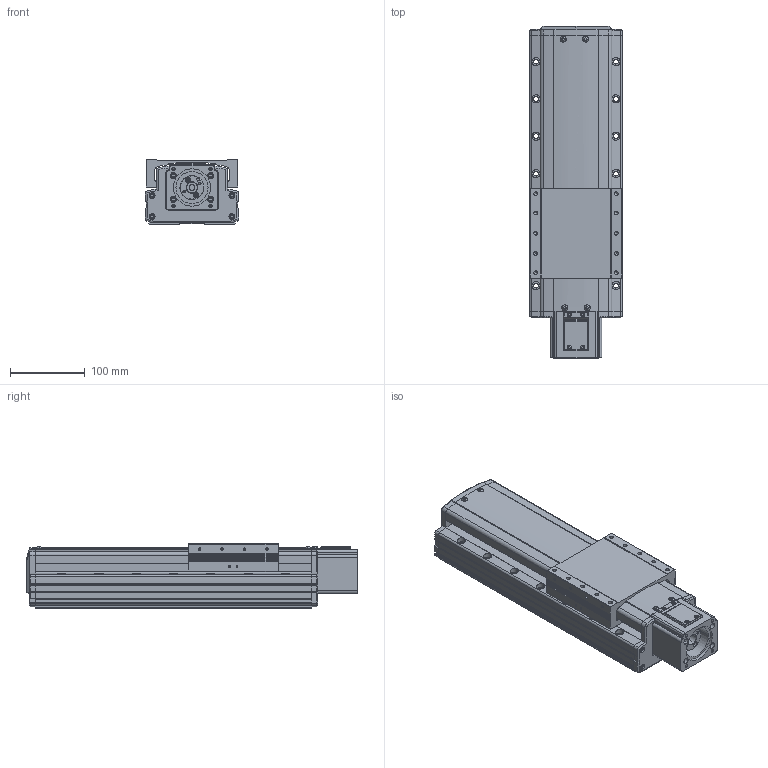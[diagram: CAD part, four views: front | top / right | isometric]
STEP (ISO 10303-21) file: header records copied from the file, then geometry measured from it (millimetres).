
FILE_DESCRIPTION(('STEP AP214'),'1');
FILE_NAME('Z:/Web/3D/PSA125/STP/PSA125-150 (3D)/PSA125ㅁㅁ-150S.stp','2014-06-20T08:50:21',(' '),(' '),'Spatial InterOp 3D',' ',' ');
FILE_SCHEMA(('automotive_design'));
Length unit declared in the file: millimetre
Products named in the file (35): 스크루 : Round - M4.0 x 10.0; RRCV-PA120; SLIDE; BASE; FRCV-PA120-1(기준 뿔 제거); RR1500; 스크루 : Round - M4.0 x 6.0; 너트 : Square - M10.0 x 220.7419; SSFX-SAN65; CPLCV-SAN65; 스크루 : Round - M3.0 x 6.0; MTHZ-PA120-S60A-3; 스크루 : Socket - M4.0 x 20.0; FRCV; NONE
Bounding box: 125 x 444.6 x 86 mm (x, y, z)
Volume: 3537752.7 mm3; surface area: 398318.8 mm2
Topology: 35 solids, 69 shells, 3110 faces, 7958 edges, 5006 vertices
Faces by surface type: plane 1461, cylinder 975, cone 409, torus 174, sphere 50, bspline 41
Entity records: 122652 total; most frequent: CARTESIAN_POINT 20420, DIRECTION 16700, ORIENTED_EDGE 15628, EDGE_CURVE 7814, AXIS2_PLACEMENT_3D 6018, VERTEX_POINT 5006, LINE 4664, VECTOR 4664
